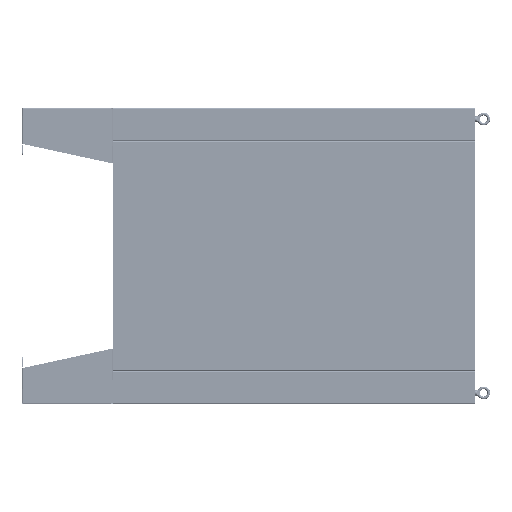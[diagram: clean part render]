
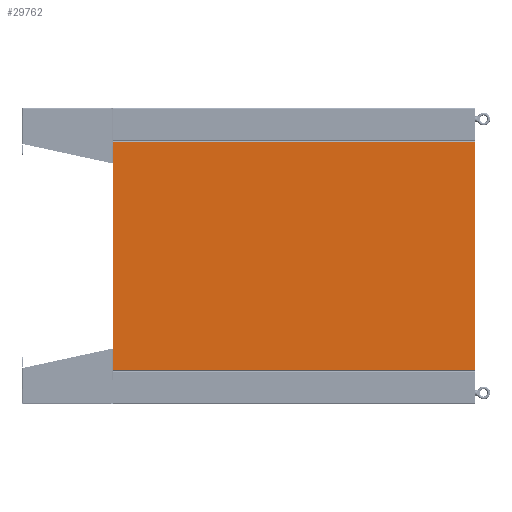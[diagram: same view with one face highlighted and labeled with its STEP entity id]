
A CAD part, left-side view. The second image highlights one B-rep face of the part: STEP entity #29762.
In plain terms, the highlighted planar face has unit normal (-1, 0, 0) as drawn and (0, 1, 0) by its records, which use the part's own axes.
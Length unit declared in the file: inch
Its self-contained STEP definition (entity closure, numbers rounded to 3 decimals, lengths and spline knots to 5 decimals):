
#28087=DIRECTION('',(-1.,0.,0.));
#28088=VECTOR('',#28087,37.622);
#28089=CARTESIAN_POINT('',(18.811,0.,29.896));
#28090=LINE('',#28089,#28088);
#28130=DIRECTION('',(0.,0.,1.));
#28131=VECTOR('',#28130,59.792);
#28132=CARTESIAN_POINT('',(18.811,0.,-29.896));
#28133=LINE('',#28132,#28131);
#28217=DIRECTION('',(-1.,0.,0.));
#28218=VECTOR('',#28217,37.622);
#28219=CARTESIAN_POINT('',(18.811,0.,-29.896));
#28220=LINE('',#28219,#28218);
#28260=DIRECTION('',(0.,0.,-1.));
#28261=VECTOR('',#28260,59.792);
#28262=CARTESIAN_POINT('',(-18.811,0.,29.896));
#28263=LINE('',#28262,#28261);
#29511=CARTESIAN_POINT('',(-18.811,0.,-29.896));
#29512=VERTEX_POINT('',#29511);
#29513=CARTESIAN_POINT('',(-18.811,0.,29.896));
#29514=VERTEX_POINT('',#29513);
#29527=CARTESIAN_POINT('',(18.811,0.,29.896));
#29528=VERTEX_POINT('',#29527);
#29529=CARTESIAN_POINT('',(18.811,0.,-29.896));
#29530=VERTEX_POINT('',#29529);
#29747=CARTESIAN_POINT('',(19.,0.,29.896));
#29748=DIRECTION('',(0.,1.,0.));
#29749=DIRECTION('',(-1.,0.,0.));
#29750=AXIS2_PLACEMENT_3D('',#29747,#29748,#29749);
#29751=PLANE('',#29750);
#29753=ORIENTED_EDGE('',*,*,#29752,.T.);
#29755=ORIENTED_EDGE('',*,*,#29754,.T.);
#29757=ORIENTED_EDGE('',*,*,#29756,.F.);
#29759=ORIENTED_EDGE('',*,*,#29758,.T.);
#29760=EDGE_LOOP('',(#29753,#29755,#29757,#29759));
#29761=FACE_OUTER_BOUND('',#29760,.F.);
#29752=EDGE_CURVE('',#29528,#29514,#28090,.T.);
#29754=EDGE_CURVE('',#29514,#29512,#28263,.T.);
#29756=EDGE_CURVE('',#29530,#29512,#28220,.T.);
#29758=EDGE_CURVE('',#29530,#29528,#28133,.T.);
#29762=ADVANCED_FACE('',(#29761),#29751,.T.);
